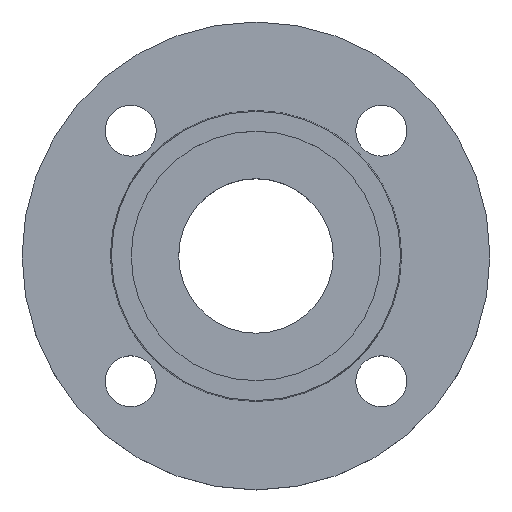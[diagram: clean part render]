
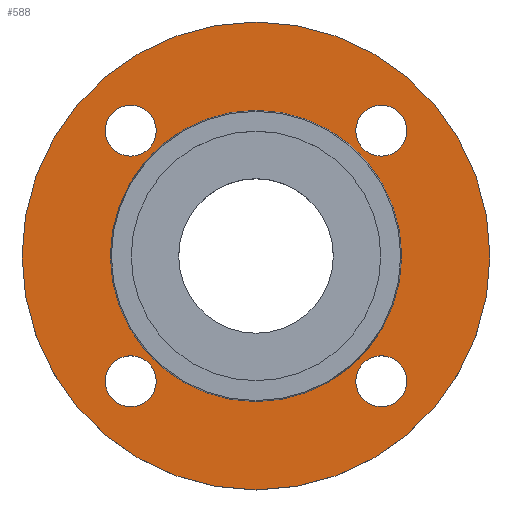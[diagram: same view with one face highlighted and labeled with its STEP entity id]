
A CAD part, top view. The second image highlights one B-rep face of the part: STEP entity #588.
In plain terms, the highlighted planar face has unit normal (0, 0, 1).
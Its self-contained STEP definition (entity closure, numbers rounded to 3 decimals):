
#4 = DIRECTION ( 'NONE',  ( 1., 0., 0. ) ) ;
#5 = DIRECTION ( 'NONE',  ( 0., 0., 1. ) ) ;
#6 = CARTESIAN_POINT ( 'NONE',  ( 51.353, 0., -2. ) ) ;
#11 = PLANE ( 'NONE',  #47 ) ;
#15 = FACE_OUTER_BOUND ( 'NONE', #640, .T. ) ;
#16 = FACE_BOUND ( 'NONE', #675, .T. ) ;
#18 = DIRECTION ( 'NONE',  ( 0., 0., -1. ) ) ;
#19 = FACE_BOUND ( 'NONE', #694, .T. ) ;
#21 = FACE_BOUND ( 'NONE', #674, .T. ) ;
#22 = CARTESIAN_POINT ( 'NONE',  ( 44.194, 44.194, -2. ) ) ;
#24 = FACE_BOUND ( 'NONE', #666, .T. ) ;
#25 = FACE_BOUND ( 'NONE', #655, .T. ) ;
#27 = CIRCLE ( 'NONE', #419, 9. ) ;
#29 = DIRECTION ( 'NONE',  ( 1., 0., 0. ) ) ;
#41 = CARTESIAN_POINT ( 'NONE',  ( -53.194, -44.194, -2. ) ) ;
#47 = AXIS2_PLACEMENT_3D ( 'NONE', #6, #5, #4 ) ;
#67 = DIRECTION ( 'NONE',  ( 1., 0., 0. ) ) ;
#69 = DIRECTION ( 'NONE',  ( 0., 0., -1. ) ) ;
#71 = CARTESIAN_POINT ( 'NONE',  ( 44.194, -44.194, -2. ) ) ;
#76 = CARTESIAN_POINT ( 'NONE',  ( 0., 0., -2. ) ) ;
#97 = DIRECTION ( 'NONE',  ( 1., 0., 0. ) ) ;
#100 = DIRECTION ( 'NONE',  ( 0., 0., -1. ) ) ;
#101 = CARTESIAN_POINT ( 'NONE',  ( -44.194, -44.194, -2. ) ) ;
#102 = DIRECTION ( 'NONE',  ( 1., 0., 0. ) ) ;
#103 = DIRECTION ( 'NONE',  ( 0., 0., -1. ) ) ;
#104 = CARTESIAN_POINT ( 'NONE',  ( -44.194, -44.194, -2. ) ) ;
#122 = DIRECTION ( 'NONE',  ( 1., 0., 0. ) ) ;
#124 = DIRECTION ( 'NONE',  ( 0., 0., -1. ) ) ;
#126 = CARTESIAN_POINT ( 'NONE',  ( -44.194, 44.194, -2. ) ) ;
#131 = VERTEX_POINT ( 'NONE', #607 ) ;
#141 = DIRECTION ( 'NONE',  ( 1., 0., 0. ) ) ;
#142 = DIRECTION ( 'NONE',  ( 0., 0., -1. ) ) ;
#144 = CARTESIAN_POINT ( 'NONE',  ( 44.194, -44.194, -2. ) ) ;
#170 = CIRCLE ( 'NONE', #554, 9. ) ;
#175 = DIRECTION ( 'NONE',  ( -1., 0., 0. ) ) ;
#179 = EDGE_CURVE ( 'NONE', #769, #703, #27, .T. ) ;
#183 = CIRCLE ( 'NONE', #186, 51.353 ) ;
#184 = DIRECTION ( 'NONE',  ( 0., 0., -1. ) ) ;
#185 = CARTESIAN_POINT ( 'NONE',  ( 0., 0., -2. ) ) ;
#186 = AXIS2_PLACEMENT_3D ( 'NONE', #76, #882, #892 ) ;
#194 = EDGE_CURVE ( 'NONE', #653, #817, #446, .T. ) ;
#206 = EDGE_CURVE ( 'NONE', #709, #740, #416, .T. ) ;
#226 = CIRCLE ( 'NONE', #394, 9. ) ;
#237 = CIRCLE ( 'NONE', #241, 9. ) ;
#241 = AXIS2_PLACEMENT_3D ( 'NONE', #126, #124, #122 ) ;
#249 = CIRCLE ( 'NONE', #252, 9. ) ;
#252 = AXIS2_PLACEMENT_3D ( 'NONE', #104, #103, #102 ) ;
#302 = DIRECTION ( 'NONE',  ( -1., 0., 0. ) ) ;
#303 = DIRECTION ( 'NONE',  ( 0., 0., -1. ) ) ;
#306 = CARTESIAN_POINT ( 'NONE',  ( 0., 0., -2. ) ) ;
#328 = CARTESIAN_POINT ( 'NONE',  ( 53.194, 44.194, -2. ) ) ;
#341 = AXIS2_PLACEMENT_3D ( 'NONE', #101, #100, #97 ) ;
#342 = CIRCLE ( 'NONE', #341, 9. ) ;
#354 = CARTESIAN_POINT ( 'NONE',  ( -51.353, 0., -2. ) ) ;
#355 = CARTESIAN_POINT ( 'NONE',  ( -53.194, 44.194, -2. ) ) ;
#372 = CARTESIAN_POINT ( 'NONE',  ( 51.353, 0., -2. ) ) ;
#374 = CARTESIAN_POINT ( 'NONE',  ( -82.5, 0., -2. ) ) ;
#375 = CIRCLE ( 'NONE', #382, 9. ) ;
#376 = CARTESIAN_POINT ( 'NONE',  ( -35.194, -44.194, -2. ) ) ;
#382 = AXIS2_PLACEMENT_3D ( 'NONE', #22, #18, #29 ) ;
#390 = CARTESIAN_POINT ( 'NONE',  ( 82.5, 0., -2. ) ) ;
#394 = AXIS2_PLACEMENT_3D ( 'NONE', #144, #142, #141 ) ;
#395 = CARTESIAN_POINT ( 'NONE',  ( -35.194, 44.194, -2. ) ) ;
#414 = EDGE_CURVE ( 'NONE', #740, #709, #463, .T. ) ;
#415 = AXIS2_PLACEMENT_3D ( 'NONE', #547, #545, #544 ) ;
#416 = CIRCLE ( 'NONE', #415, 82.5 ) ;
#419 = AXIS2_PLACEMENT_3D ( 'NONE', #578, #577, #576 ) ;
#424 = AXIS2_PLACEMENT_3D ( 'NONE', #569, #568, #563 ) ;
#442 = EDGE_CURVE ( 'NONE', #131, #671, #226, .T. ) ;
#446 = CIRCLE ( 'NONE', #424, 9. ) ;
#458 = EDGE_CURVE ( 'NONE', #703, #769, #237, .T. ) ;
#462 = AXIS2_PLACEMENT_3D ( 'NONE', #185, #184, #175 ) ;
#463 = CIRCLE ( 'NONE', #462, 82.5 ) ;
#496 = EDGE_CURVE ( 'NONE', #739, #656, #249, .T. ) ;
#518 = EDGE_CURVE ( 'NONE', #656, #739, #342, .T. ) ;
#538 = CIRCLE ( 'NONE', #555, 51.353 ) ;
#544 = DIRECTION ( 'NONE',  ( -1., 0., 0. ) ) ;
#545 = DIRECTION ( 'NONE',  ( 0., 0., -1. ) ) ;
#547 = CARTESIAN_POINT ( 'NONE',  ( 0., 0., -2. ) ) ;
#554 = AXIS2_PLACEMENT_3D ( 'NONE', #71, #69, #67 ) ;
#555 = AXIS2_PLACEMENT_3D ( 'NONE', #306, #303, #302 ) ;
#561 = EDGE_CURVE ( 'NONE', #671, #131, #170, .T. ) ;
#563 = DIRECTION ( 'NONE',  ( 1., 0., 0. ) ) ;
#568 = DIRECTION ( 'NONE',  ( 0., 0., -1. ) ) ;
#569 = CARTESIAN_POINT ( 'NONE',  ( 44.194, 44.194, -2. ) ) ;
#576 = DIRECTION ( 'NONE',  ( 1., 0., 0. ) ) ;
#577 = DIRECTION ( 'NONE',  ( 0., 0., -1. ) ) ;
#578 = CARTESIAN_POINT ( 'NONE',  ( -44.194, 44.194, -2. ) ) ;
#588 = ADVANCED_FACE ( 'NONE', ( #25, #24, #21, #19, #16, #15 ), #11, .T. ) ;
#607 = CARTESIAN_POINT ( 'NONE',  ( 35.194, -44.194, -2. ) ) ;
#617 = EDGE_CURVE ( 'NONE', #817, #653, #375, .T. ) ;
#640 = EDGE_LOOP ( 'NONE', ( #791, #792 ) ) ;
#653 = VERTEX_POINT ( 'NONE', #854 ) ;
#655 = EDGE_LOOP ( 'NONE', ( #779, #780 ) ) ;
#656 = VERTEX_POINT ( 'NONE', #41 ) ;
#658 = EDGE_CURVE ( 'NONE', #770, #743, #183, .T. ) ;
#666 = EDGE_LOOP ( 'NONE', ( #781, #783 ) ) ;
#671 = VERTEX_POINT ( 'NONE', #865 ) ;
#674 = EDGE_LOOP ( 'NONE', ( #784, #785 ) ) ;
#675 = EDGE_LOOP ( 'NONE', ( #789, #790 ) ) ;
#694 = EDGE_LOOP ( 'NONE', ( #786, #788 ) ) ;
#703 = VERTEX_POINT ( 'NONE', #395 ) ;
#709 = VERTEX_POINT ( 'NONE', #390 ) ;
#739 = VERTEX_POINT ( 'NONE', #376 ) ;
#740 = VERTEX_POINT ( 'NONE', #374 ) ;
#743 = VERTEX_POINT ( 'NONE', #372 ) ;
#769 = VERTEX_POINT ( 'NONE', #355 ) ;
#770 = VERTEX_POINT ( 'NONE', #354 ) ;
#779 = ORIENTED_EDGE ( 'NONE', *, *, #561, .T. ) ;
#780 = ORIENTED_EDGE ( 'NONE', *, *, #442, .T. ) ;
#781 = ORIENTED_EDGE ( 'NONE', *, *, #496, .T. ) ;
#783 = ORIENTED_EDGE ( 'NONE', *, *, #518, .T. ) ;
#784 = ORIENTED_EDGE ( 'NONE', *, *, #458, .T. ) ;
#785 = ORIENTED_EDGE ( 'NONE', *, *, #179, .T. ) ;
#786 = ORIENTED_EDGE ( 'NONE', *, *, #617, .T. ) ;
#788 = ORIENTED_EDGE ( 'NONE', *, *, #194, .T. ) ;
#789 = ORIENTED_EDGE ( 'NONE', *, *, #658, .T. ) ;
#790 = ORIENTED_EDGE ( 'NONE', *, *, #896, .T. ) ;
#791 = ORIENTED_EDGE ( 'NONE', *, *, #206, .F. ) ;
#792 = ORIENTED_EDGE ( 'NONE', *, *, #414, .F. ) ;
#817 = VERTEX_POINT ( 'NONE', #328 ) ;
#854 = CARTESIAN_POINT ( 'NONE',  ( 35.194, 44.194, -2. ) ) ;
#865 = CARTESIAN_POINT ( 'NONE',  ( 53.194, -44.194, -2. ) ) ;
#882 = DIRECTION ( 'NONE',  ( 0., 0., -1. ) ) ;
#892 = DIRECTION ( 'NONE',  ( -1., 0., 0. ) ) ;
#896 = EDGE_CURVE ( 'NONE', #743, #770, #538, .T. ) ;
